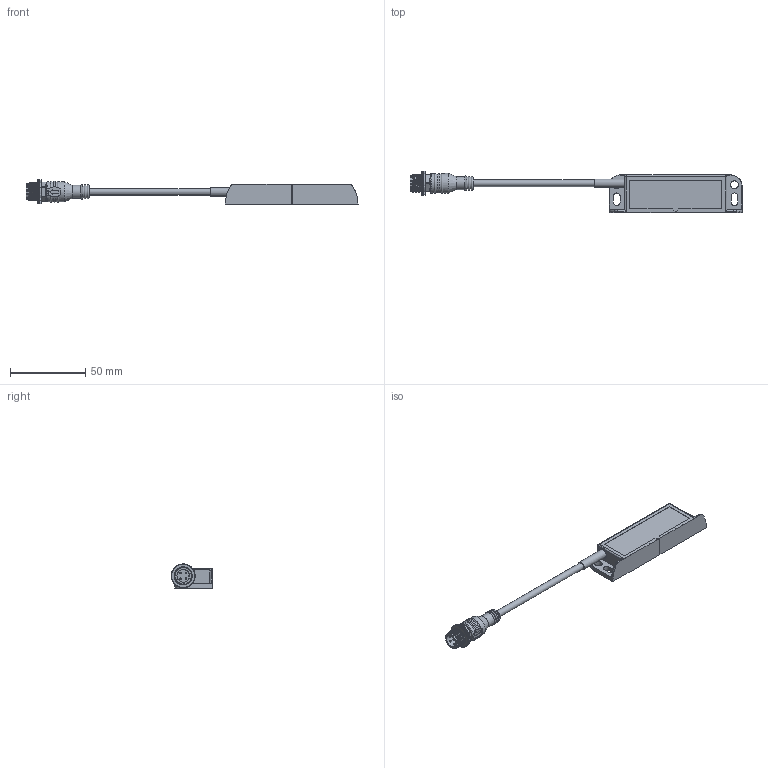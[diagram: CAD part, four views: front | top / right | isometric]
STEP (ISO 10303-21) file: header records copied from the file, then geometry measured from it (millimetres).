
FILE_DESCRIPTION(/* description */ (''),/* implementation_level */ '2;1');
FILE_NAME(/* name */ 'V:/a TO PERSON/Vilius/MC88/Catalogue/CADs/MC88CH2ORT1.step',/* time_stamp */ '2020-10-27T09:43:19+02:00',/* author */ (''),/* organization */ (''),/* preprocessor_version */ 'ST-DEVELOPER v18.1',/* originating_system */ 'Autodesk Translation Framework v9.3.0.1241',/* authorisation */ '');
FILE_SCHEMA (('AUTOMOTIVE_DESIGN { 1 0 10303 214 3 1 1 }'));
Length unit declared in the file: millimetre
Products named in the file (2): MC88CH2ORT1; M12_pigtail
Assembly tree (1 placements, depth 2):
  MC88CH2ORT1
    M12_pigtail
Bounding box: 220.1 x 27.4 x 16 mm (x, y, z)
Volume: 29231.2 mm3; surface area: 20259.1 mm2
Topology: 10 solids, 10 shells, 750 faces, 2122 edges, 1406 vertices
Faces by surface type: plane 393, cylinder 318, bspline 17, torus 10, cone 10, sphere 2
Full cylindrical faces by diameter (mm): 1 x4, 4.4 x2, 5.6 x1, 7 x2, 7.8 x1, 8 x2, 8.2 x2, 8.4 x1, 8.615 x1, 9.8 x2, 10.741 x5, 10.8 x1, 11.884 x6, 13.316 x2
Entity records: 26797 total; most frequent: CARTESIAN_POINT 6787, ORIENTED_EDGE 4244, DIRECTION 4164, EDGE_CURVE 2122, VERTEX_POINT 1406, AXIS2_PLACEMENT_3D 1390, LINE 1384, VECTOR 1384
